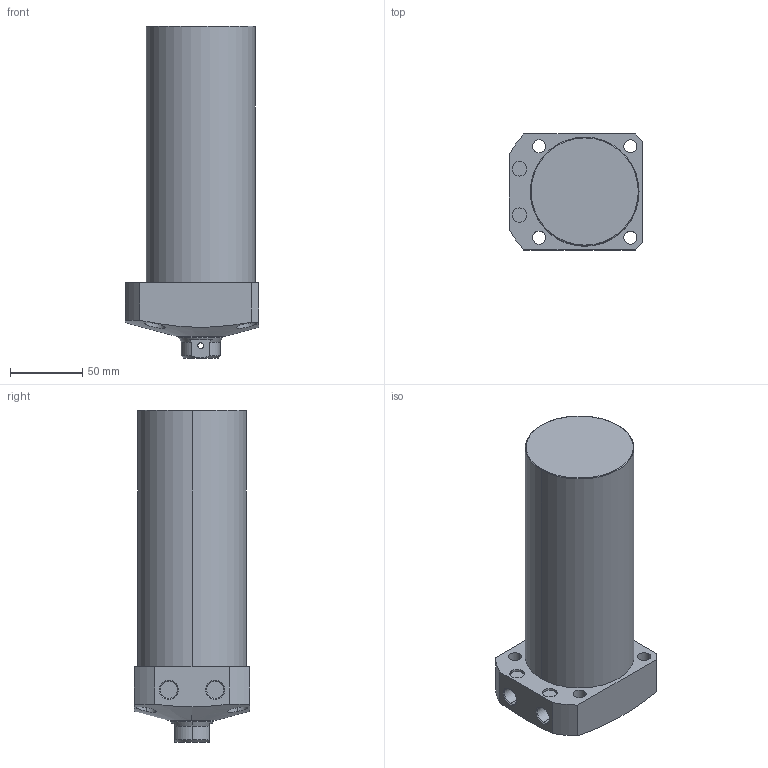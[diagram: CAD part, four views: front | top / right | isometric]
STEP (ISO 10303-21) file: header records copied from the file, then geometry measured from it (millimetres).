
FILE_DESCRIPTION (( 'STEP AP203' ), '1' );
FILE_NAME ('CLL-075CB-140.STEP', '2019-12-24T00:25:00', ( '' ), ( '' ), 'SwSTEP 2.0', 'SolidWorks 2015', '' );
FILE_SCHEMA (( 'CONFIG_CONTROL_DESIGN' ));
Length unit declared in the file: millimetre
Products named in the file (1): CLL-075CB-140
Bounding box: 92 x 80 x 229 mm (x, y, z)
Volume: 1000892.5 mm3; surface area: 74117.8 mm2
Topology: 1 solids, 1 shells, 78 faces, 183 edges, 116 vertices
Faces by surface type: cylinder 39, plane 22, cone 15, torus 2
Entity records: 2862 total; most frequent: CARTESIAN_POINT 955, DIRECTION 396, ORIENTED_EDGE 362, EDGE_CURVE 181, AXIS2_PLACEMENT_3D 164, VERTEX_POINT 116, EDGE_LOOP 101, CIRCLE 85
